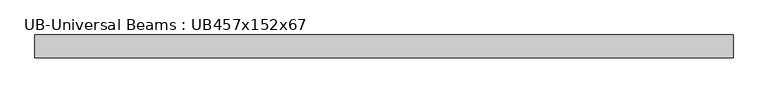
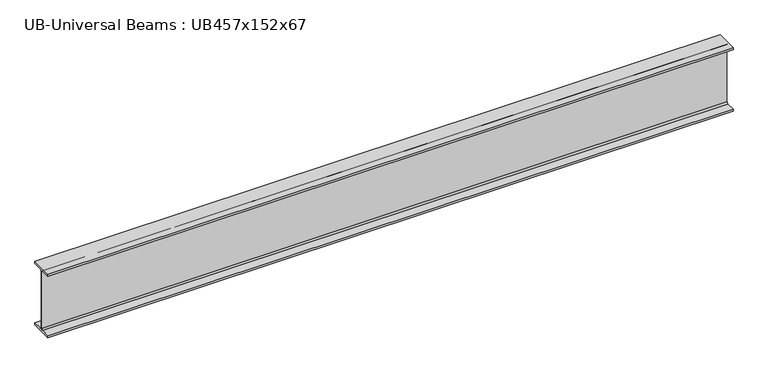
"""IFC4 building model written with IfcOpenShell, lengths in millimetres: beam geometry, UB-Universal Beams : UB457x152x67."""

from ifc_helpers import new_model, si_unit, point, frame, frame_2d, origin, place, context, project, spatial, polyline, circle_curve, trimmed, segment, composite_curve, outline, extrude, source, transform, mapped, element, save


def ub_universal_beams_ub457x152x67_f862a4b8(model_context):
    return source(origin(), model_context, "Body", "SweptSolid", [
        extrude(outline(composite_curve([segment(polyline([(76.9, -214.0), (76.9, -229.0), (-76.9, -229.0), (-76.9, -214.0), (-14.7, -214.0)]), True, "CONTINUOUS"), segment(trimmed(circle_curve(frame_2d((-14.7, -203.8)), 10.2), [point((-14.7, -214.0))], [point((-4.5, -203.8))], True, "CARTESIAN"), True, "CONTINUOUS"), segment(polyline([(-4.5, -203.8), (-4.5, 203.8)]), True, "CONTINUOUS"), segment(trimmed(circle_curve(frame_2d((-14.7, 203.8)), 10.2), [point((-4.5, 203.8))], [point((-14.7, 214.0))], True, "CARTESIAN"), True, "CONTINUOUS"), segment(polyline([(-14.7, 214.0), (-76.9, 214.0), (-76.9, 229.0), (76.9, 229.0), (76.9, 214.0), (14.7, 214.0)]), True, "CONTINUOUS"), segment(trimmed(circle_curve(frame_2d((14.7, 203.8)), 10.2), [point((14.7, 214.0))], [point((4.5, 203.8))], True, "CARTESIAN"), True, "CONTINUOUS"), segment(polyline([(4.5, 203.8), (4.5, -203.8)]), True, "CONTINUOUS"), segment(trimmed(circle_curve(frame_2d((14.7, -203.8)), 10.2), [point((4.5, -203.8))], [point((14.7, -214.0))], True, "CARTESIAN"), True, "CONTINUOUS"), segment(polyline([(14.7, -214.0), (76.9, -214.0)]), True, "CONTINUOUS")], self_intersect=False)), frame((-2334.1, 0.0, 0.0), z_axis=(1.0, 0.0, 0.0), x_axis=(0.0, 1.0, 0.0)), (0.0, 0.0, 1.0), 4671.4),
    ])


if __name__ == "__main__":
    model = new_model("IFC4")
    model_context = context("Model", 3, world=origin())
    ifc_project = project(units=[si_unit("LENGTHUNIT", "METRE", prefix="MILLI")], contexts=[model_context])
    site = spatial("IfcSite", under=ifc_project)
    building = spatial("IfcBuilding", under=site)
    placement = place(None, origin())
    ub_universal_beams_ub457x152x67_shape = ub_universal_beams_ub457x152x67_f862a4b8(model_context)
    element("IfcBeam", 1, ObjectType="UB-Universal Beams : UB457x152x67", at=placement, inside=building, context=model_context, shape_type="MappedRepresentation", body=[
        mapped(ub_universal_beams_ub457x152x67_shape, transform((0.0, 0.0, 0.0), x_axis=(1.0, 0.0, 0.0), y_axis=(0.0, 1.0, 0.0), z_axis=(0.0, 0.0, 1.0))),
    ])
    save(model, "model.ifc")
